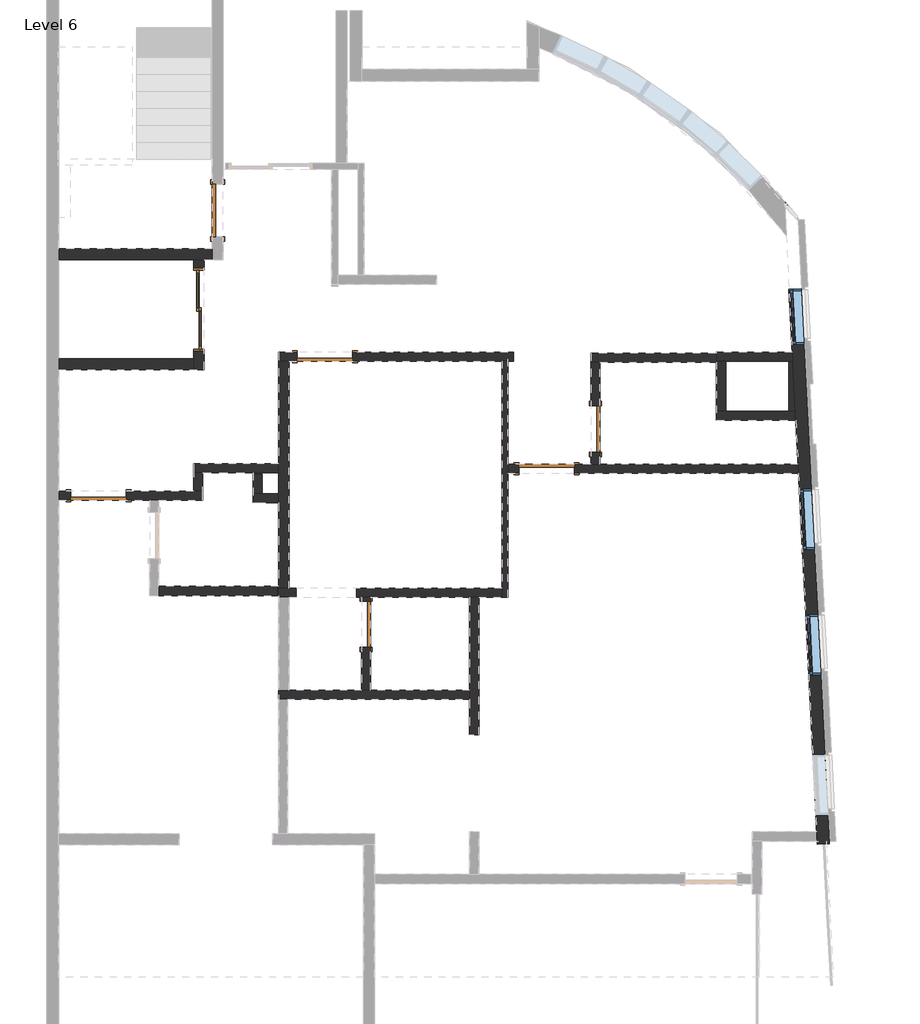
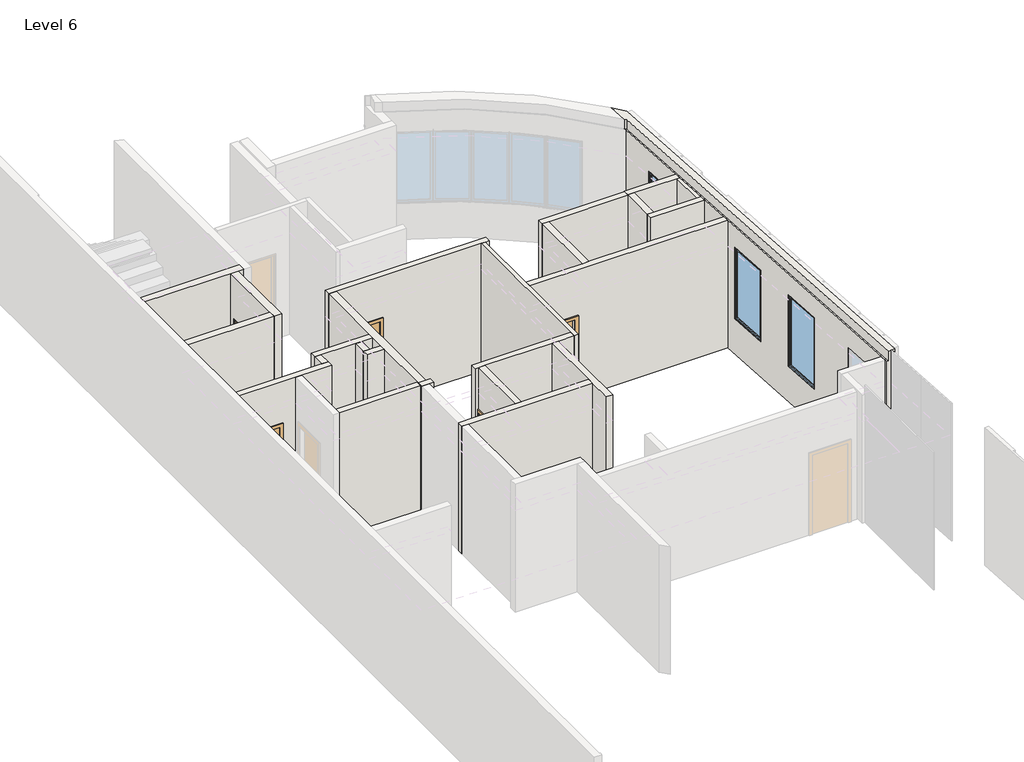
# One storey, part 3 of 5: 25 walls, 7 doors, 3 windows.
"""IFC4 building model written with IfcOpenShell, lengths in millimetres."""

from ifc_helpers import new_model, si_unit, frame, origin, place, context, project, spatial, polyline, circle_curve, outline, extrude, faceted_brep, transform, mapped, element, save
from ifc_brep_helpers import plane_surface, cylinder_surface, revolved_surface, advanced_brep
from components import m_single_flush_0762_x_2134mm_1533e4c5, m_single_flush_0762_x_2134mm_8c18b9de, m_single_flush_0864_x_2032mm_7823a673, m_single_flush_0915_x_2032mm_11c03dd0, m_single_flush_0915_x_2134mm_138fd904, sliding_door_2_panel_aus_f73f6a40, m_fixed_0915_x_1830mm_5d6e8bc1, m_fixed_1000_x_1830mm_2_3397196e

model = new_model("IFC4")

# Units and contexts
model_context = context("Model", 3, world=origin())
ifc_project = project(units=[si_unit("LENGTHUNIT", "METRE", prefix="MILLI")], contexts=[model_context])

# Site, building, storey
site = spatial("IfcSite", under=ifc_project)
building = spatial("IfcBuilding", under=site)
storey = spatial("IfcBuildingStorey", under=building, Name="Level 6", Elevation=22000.0)

# Doors
placement = place(None, origin())
m_single_flush_0762_x_2134mm_shape = m_single_flush_0762_x_2134mm_1533e4c5(model_context)
element("IfcDoor", 1, ObjectType="M_Single-Flush : 0762 x 2134mm", at=placement, inside=storey, context=model_context, shape_type="MappedRepresentation", body=[
    mapped(m_single_flush_0762_x_2134mm_shape, transform((8794.9578779, 5730.2927029, 22000.0), x_axis=(0.0, -1.0, 0.0), y_axis=(1.0, 0.0, 0.0), z_axis=(0.0, 0.0, 1.0))),
])
m_single_flush_0762_x_2134mm_2_shape = m_single_flush_0762_x_2134mm_8c18b9de(model_context)
element("IfcDoor", 2, ObjectType="M_Single-Flush : 0762 x 2134mm", at=placement, inside=storey, context=model_context, shape_type="MappedRepresentation", body=[
    mapped(m_single_flush_0762_x_2134mm_2_shape, transform((5014.9578779, 2515.8778064, 22000.0), x_axis=(0.0, 1.0, 0.0), y_axis=(-1.0, 0.0, 0.0), z_axis=(0.0, 0.0, 1.0))),
])
m_single_flush_0864_x_2032mm_shape = m_single_flush_0864_x_2032mm_7823a673(model_context)
element("IfcDoor", 3, ObjectType="M_Single-Flush : 0864 x 2032mm", at=placement, inside=storey, context=model_context, shape_type="MappedRepresentation", body=[
    mapped(m_single_flush_0864_x_2032mm_shape, transform((2571.8607589, 9328.8748746, 22000.0), x_axis=(0.0, -1.0, 0.0), y_axis=(1.0, 0.0, 0.0), z_axis=(0.0, 0.0, 1.0))),
])
m_single_flush_0915_x_2032mm_shape = m_single_flush_0915_x_2032mm_11c03dd0(model_context)
element("IfcDoor", 4, ObjectType="M_Single-Flush : 0915 x 2032mm", at=placement, inside=storey, context=model_context, shape_type="MappedRepresentation", body=[
    mapped(m_single_flush_0915_x_2032mm_shape, transform((7987.4578779, 5074.2927029, 22000.0), x_axis=(-1.0, 0.0, 0.0), y_axis=(0.0, -1.0, 0.0), z_axis=(0.0, 0.0, 1.0))),
])
m_single_flush_0915_x_2134mm_shape = m_single_flush_0915_x_2134mm_138fd904(model_context)
element("IfcDoor", 5, ObjectType="M_Single-Flush : 0915 x 2134mm", at=placement, inside=storey, context=model_context, shape_type="MappedRepresentation", body=[
    mapped(m_single_flush_0915_x_2134mm_shape, transform((607.4578696, 4631.8830582, 22000.0), x_axis=(-1.0, 0.0, 0.0), y_axis=(0.0, -1.0, 0.0), z_axis=(0.0, 0.0, 1.0))),
])
element("IfcDoor", 6, ObjectType="M_Single-Flush : 0915 x 2134mm", at=placement, inside=storey, context=model_context, shape_type="MappedRepresentation", body=[
    mapped(m_single_flush_0915_x_2134mm_shape, transform((4337.4578779, 6919.2927825, 22000.0), x_axis=(-1.0, 0.0, 0.0), y_axis=(0.0, -1.0, 0.0), z_axis=(0.0, 0.0, 1.0))),
])
sliding_door_2_panel_aus_shape = sliding_door_2_panel_aus_f73f6a40(model_context)
element("IfcDoor", 7, ObjectType="Sliding Door - 2 Panel (AUS) : elavator door", at=placement, inside=storey, context=model_context, shape_type="MappedRepresentation", body=[
    mapped(sliding_door_2_panel_aus_shape, transform((2260.0654712, 7782.6328884, 22000.0), x_axis=(0.0, -1.0, 0.0), y_axis=(1.0, 0.0, 0.0), z_axis=(0.0, 0.0, 1.0))),
])

# Walls
element("IfcWall", 8, ObjectType="Generic - 15cm-granit&gypsum", at=placement, inside=storey, context=model_context, shape_type="SweptSolid", body=[
    extrude(outline(polyline([(5349.2927029, 24134.0), (5349.2927029, 22000.0), (5149.2927029, 22000.0), (5149.2927029, 25259.0), (6830.3684627, 25259.0), (6830.3684627, 22000.0), (6111.2927029, 22000.0), (6111.2927029, 24134.0), (5349.2927029, 24134.0)])), frame((8719.9578779, 0.0, 0.0), z_axis=(1.0, 0.0, 0.0), x_axis=(0.0, 1.0, 0.0)), (0.0, 0.0, 1.0), 150.0),
])
element("IfcWall", 9, ObjectType="Generic - 15cm-gypsu-2boith", at=placement, inside=storey, context=model_context, shape_type="Brep", body=[
    faceted_brep([(12034.2942913, 6994.2927825, 22000.0), (10782.6929286, 6994.2927825, 22000.0), (10782.6929286, 6994.2927825, 25259.0), (12034.2942913, 6994.2927825, 25259.0), (10782.6929286, 6844.2927825, 22000.0), (10788.049349, 6844.2927825, 22000.0), (10938.049349, 6844.2927825, 22000.0), (11974.9265269, 6844.2927825, 22000.0), (12041.9294162, 6844.2927825, 22000.0), (12041.9294162, 6844.2927825, 25259.0), (10782.6929286, 6844.2927825, 25259.0), (10782.6929286, 6980.3684627, 22000.0), (10782.6929286, 6980.3684627, 25259.0)], [[[0, 1, 2, 3]], [[4, 5, 6, 7, 8, 9, 10]], [[1, 0, 8, 7, 6, 5, 4, 11]], [[1, 11, 4, 10, 12, 2]], [[8, 0, 3, 9]], [[3, 2, 12, 10, 9]]]),
])
element("IfcWall", 10, ObjectType="Generic - 15cm-granit&gypsum", at=placement, inside=storey, context=model_context, shape_type="Brep", body=[
    faceted_brep([(7529.9578779, 5149.2927029, 24032.0), (7529.9578779, 5149.2927029, 22000.0), (7349.9578779, 5149.2927029, 22000.0), (7349.9578779, 5149.2927029, 25259.0), (8719.9578779, 5149.2927029, 25259.0), (8869.9578779, 5149.2927029, 25259.0), (12128.2063311, 5149.2927029, 25259.0), (12128.2063311, 5149.2927029, 22000.0), (8869.9578779, 5149.2927029, 22000.0), (8719.9578779, 5149.2927029, 22000.0), (8444.9578779, 5149.2927029, 22000.0), (8444.9578779, 5149.2927029, 24032.0), (7529.9578779, 4999.2927029, 22000.0), (7529.9578779, 4999.2927029, 24032.0), (8444.9578779, 4999.2927029, 24032.0), (8444.9578779, 4999.2927029, 22000.0), (12135.8414559, 4999.2927029, 22000.0), (12135.8414559, 4999.2927029, 25259.0), (7349.9578779, 4999.2927029, 25259.0), (7349.9578779, 4999.2927029, 22000.0)], [[[0, 1, 2, 3, 4, 5, 6, 7, 8, 9, 10, 11]], [[12, 13, 14, 15, 16, 17, 18, 19]], [[7, 16, 15, 10, 9, 8]], [[19, 2, 1, 12]], [[16, 7, 6, 17]], [[2, 19, 18, 3]], [[13, 12, 1, 0]], [[14, 13, 0, 11]], [[15, 14, 11, 10]], [[6, 5, 4, 3, 18, 17]]]),
])
element("IfcWall", 11, ObjectType="Generic - 10cm-gypsu-2boith", at=placement, inside=storey, context=model_context, shape_type="Brep", body=[
    faceted_brep([(7249.9578779, 6844.2927825, 22000.0), (7249.9578779, 3106.8778064, 22000.0), (7249.9578779, 2956.8778064, 22000.0), (7249.9578779, 2956.8778064, 25259.0), (7249.9578779, 3106.8778064, 25259.0), (7249.9578779, 6844.2927825, 25259.0), (7349.9578779, 2956.8778064, 22000.0), (7349.9578779, 4999.2927029, 22000.0), (7349.9578779, 5149.2927029, 22000.0), (7349.9578779, 6844.2927825, 22000.0), (7349.9578779, 6844.2927825, 25259.0), (7349.9578779, 5149.2927029, 25259.0), (7349.9578779, 4999.2927029, 25259.0), (7349.9578779, 2956.8778064, 25259.0)], [[[0, 1, 2, 3, 4, 5]], [[6, 7, 8, 9, 10, 11, 12, 13]], [[2, 1, 0, 9, 8, 7, 6]], [[2, 6, 13, 3]], [[9, 0, 5, 10]], [[5, 4, 3, 13, 12, 11, 10]]]),
])
element("IfcWall", 12, ObjectType="Generic - 15cm-granit&gypsum", at=placement, inside=storey, context=model_context, shape_type="Brep", body=[
    faceted_brep([(7249.9578779, 3106.8778064, 22000.0), (4859.9578779, 3106.8778064, 22000.0), (4859.9578779, 3106.8778064, 25259.0), (7249.9578779, 3106.8778064, 25259.0), (4859.9578779, 2956.8778064, 22000.0), (4939.9578779, 2956.8778064, 22000.0), (5089.9578779, 2956.8778064, 22000.0), (6719.9578779, 2956.8778064, 22000.0), (6869.9578779, 2956.8778064, 22000.0), (7249.9578779, 2956.8778064, 22000.0), (7249.9578779, 2956.8778064, 25259.0), (6869.9578779, 2956.8778064, 25259.0), (6719.9578779, 2956.8778064, 25259.0), (5089.9578779, 2956.8778064, 25259.0), (4939.9578779, 2956.8778064, 25259.0), (4859.9578779, 2956.8778064, 25259.0)], [[[0, 1, 2, 3]], [[4, 5, 6, 7, 8, 9, 10, 11, 12, 13, 14, 15]], [[1, 0, 9, 8, 7, 6, 5, 4]], [[1, 4, 15, 2]], [[9, 0, 3, 10]], [[3, 2, 15, 14, 13, 12, 11, 10]]]),
])
element("IfcWall", 13, ObjectType="Generic - 15cm-granit&gypsum", at=placement, inside=storey, context=model_context, shape_type="Brep", body=[
    faceted_brep([(6719.9578779, 1426.8778064, 22000.0), (5089.9578779, 1426.8778064, 22000.0), (4939.9578779, 1426.8778064, 22000.0), (3749.9578779, 1426.8778064, 22000.0), (3569.9578779, 1426.8778064, 22000.0), (3569.9578779, 1426.8778064, 25259.0), (3749.9578779, 1426.8778064, 25259.0), (6719.9578779, 1426.8778064, 25259.0), (3569.9578779, 1276.8778064, 22000.0), (3719.9578779, 1276.8778064, 22000.0), (6719.9578779, 1276.8778064, 22000.0), (6719.9578779, 1276.8778064, 25259.0), (3719.9578779, 1276.8778064, 25259.0), (3569.9578779, 1276.8778064, 25259.0)], [[[0, 1, 2, 3, 4, 5, 6, 7]], [[8, 9, 10, 11, 12, 13]], [[4, 3, 2, 1, 0, 10, 9, 8]], [[10, 0, 7, 11]], [[4, 8, 13, 5]], [[7, 6, 5, 13, 12, 11]]]),
])
element("IfcWall", 14, ObjectType="Generic - 15cm-granit&gypsum", at=placement, inside=storey, context=model_context, shape_type="Brep", body=[
    faceted_brep([(6719.9578779, 2956.8778064, 22000.0), (6719.9578779, 1426.8778064, 22000.0), (6719.9578779, 1276.8778064, 22000.0), (6719.9578779, 696.0452702, 22000.0), (6719.9578779, 696.0452702, 25259.0), (6719.9578779, 1276.8778064, 25259.0), (6719.9578779, 1426.8778064, 25259.0), (6719.9578779, 2956.8778064, 25259.0), (6869.9578779, 696.0452702, 22000.0), (6869.9578779, 2956.8778064, 22000.0), (6869.9578779, 2956.8778064, 25259.0), (6869.9578779, 696.0452702, 25259.0)], [[[0, 1, 2, 3, 4, 5, 6, 7]], [[8, 9, 10, 11]], [[3, 2, 1, 0, 9, 8]], [[3, 8, 11, 4]], [[9, 0, 7, 10]], [[7, 6, 5, 4, 11, 10]]]),
])
element("IfcWall", 15, ObjectType="Generic - 18cm-gypsu-2boith 2", at=placement, inside=storey, context=model_context, shape_type="Brep", body=[
    faceted_brep([(3569.9578779, 6844.2927825, 22000.0), (3569.9578779, 5156.8860701, 22000.0), (3569.9578779, 5006.8860701, 22000.0), (3569.9578779, 4666.8864855, 22000.0), (3569.9578779, 4516.8864855, 22000.0), (3569.9578779, 3106.8778064, 22000.0), (3569.9578779, 3106.8778064, 25259.0), (3569.9578779, 4516.8864855, 25259.0), (3569.9578779, 4666.8864855, 25259.0), (3569.9578779, 5006.8860701, 25259.0), (3569.9578779, 5156.8860701, 25259.0), (3569.9578779, 6844.2927825, 25259.0), (3749.9578779, 3106.8778064, 22000.0), (3749.9578779, 6844.2927825, 22000.0), (3749.9578779, 6844.2927825, 25259.0), (3749.9578779, 3106.8778064, 25259.0)], [[[0, 1, 2, 3, 4, 5, 6, 7, 8, 9, 10, 11]], [[12, 13, 14, 15]], [[5, 4, 3, 2, 1, 0, 13, 12]], [[5, 12, 15, 6]], [[13, 0, 11, 14]], [[11, 10, 9, 8, 7, 6, 15, 14]]]),
])
element("IfcWall", 16, ObjectType="Generic - 18cm-gypsu-2boith 2", at=placement, inside=storey, context=model_context, shape_type="SweptSolid", body=[
    extrude(outline(polyline([(-50.0421304, 8696.8748746), (2481.8607589, 8696.8748746), (2481.8607589, 8516.8748746), (-50.0421304, 8516.8748746), (-50.0421304, 8696.8748746)])), frame((0.0, 0.0, 22000.0), z_axis=(0.0, 0.0, 1.0), x_axis=(1.0, 0.0, 0.0)), (0.0, 0.0, 1.0), 3259.0),
])
element("IfcWall", 17, ObjectType="Generic - 18cm-gypsu-2boith 2", at=placement, inside=storey, context=model_context, shape_type="Brep", body=[
    faceted_brep([(2170.0654712, 8506.8748906, 22000.0), (2170.0654712, 8386.8748872, 22000.0), (2170.0654712, 8386.8748872, 24183.0), (2170.0654712, 7006.8748872, 24183.0), (2170.0654712, 7006.8748872, 22000.0), (2170.0654712, 6886.8748838, 22000.0), (2170.0654712, 6706.8748838, 22000.0), (2170.0654712, 6706.8748838, 25259.0), (2170.0654712, 6886.8748838, 25259.0), (2170.0654712, 8506.8748906, 25259.0), (2350.0654712, 8386.8748872, 22000.0), (2350.0654712, 8506.8748906, 22000.0), (2350.0654712, 8506.8748906, 25259.0), (2350.0654712, 6706.8748838, 25259.0), (2350.0654712, 6706.8748838, 22000.0), (2350.0654712, 7006.8748872, 22000.0), (2350.0654712, 7006.8748872, 24183.0), (2350.0654712, 8386.8748872, 24183.0)], [[[0, 1, 2, 3, 4, 5, 6, 7, 8, 9]], [[10, 11, 12, 13, 14, 15, 16, 17]], [[0, 11, 10, 1]], [[14, 6, 5, 4, 15]], [[11, 0, 9, 12]], [[6, 14, 13, 7]], [[9, 8, 7, 13, 12]], [[17, 2, 1, 10]], [[2, 17, 16, 3]], [[3, 16, 15, 4]]]),
])
element("IfcWall", 18, ObjectType="Generic - 18cm-gypsu-2boith 2", at=placement, inside=storey, context=model_context, shape_type="SweptSolid", body=[
    extrude(outline(polyline([(-50.0421304, 6886.8748838), (2170.0654712, 6886.8748838), (2170.0654712, 6706.8748838), (-50.0421304, 6706.8748838), (-50.0421304, 6886.8748838)])), frame((0.0, 0.0, 22000.0), z_axis=(0.0, 0.0, 1.0), x_axis=(1.0, 0.0, 0.0)), (0.0, 0.0, 1.0), 3259.0),
])
element("IfcWall", 19, ObjectType="Generic - 15cm-granit&gypsum", at=placement, inside=storey, context=model_context, shape_type="Brep", body=[
    faceted_brep([(12077.3702251, 6025.0705769, 22000.0), (12074.9265269, 6025.0705769, 22000.0), (11974.9265269, 6025.0705769, 22000.0), (10938.049349, 6025.0705769, 22000.0), (10788.049349, 6025.0705769, 22000.0), (10788.049349, 6025.0705769, 25259.0), (10938.049349, 6025.0705769, 25259.0), (12077.3702251, 6025.0705769, 25259.0), (10788.049349, 5875.0705769, 22000.0), (12077.3702251, 5875.0705769, 22000.0), (12077.3702251, 5875.0705769, 25259.0), (10788.049349, 5875.0705769, 25259.0)], [[[0, 1, 2, 3, 4, 5, 6, 7]], [[8, 9, 10, 11]], [[4, 3, 2, 1, 0, 9, 8]], [[9, 0, 7, 10]], [[4, 8, 11, 5]], [[7, 6, 5, 11, 10]]]),
])
element("IfcWall", 20, ObjectType="Generic - 15cm-granit&gypsum", at=placement, inside=storey, context=model_context, shape_type="SweptSolid", body=[
    extrude(outline(polyline([(10938.049349, 6844.2927825), (10938.049349, 6025.0705769), (10788.049349, 6025.0705769), (10788.049349, 6844.2927825), (10938.049349, 6844.2927825)])), frame((0.0, 0.0, 22000.0), z_axis=(0.0, 0.0, 1.0), x_axis=(1.0, 0.0, 0.0)), (0.0, 0.0, 1.0), 3259.0),
])
element("IfcWall", 21, ObjectType="Generic - 10cm-gypsu-2boith", at=placement, inside=storey, context=model_context, shape_type="Brep", body=[
    faceted_brep([(12074.9265269, 6025.0705769, 22000.0), (12074.9265269, 6844.2927825, 22000.0), (12074.9265269, 6844.2927825, 25500.0), (12074.9265269, 6786.1744317, 25500.0), (12074.9265269, 6786.1744317, 25259.0), (12074.9265269, 6025.0705769, 25259.0), (11974.9265269, 6844.2927825, 22000.0), (11974.9265269, 6025.0705769, 22000.0), (11974.9265269, 6025.0705769, 25259.0), (11974.9265269, 6844.2927825, 25259.0), (12041.9294162, 6844.2927825, 22000.0), (12071.9682544, 6844.2927825, 25500.0), (12041.9294162, 6844.2927825, 25259.0), (12071.9682544, 6844.2927825, 25259.0)], [[[0, 1, 2, 3, 4, 5]], [[6, 7, 8, 9]], [[1, 0, 7, 6, 10]], [[3, 2, 11]], [[7, 0, 5, 8]], [[2, 1, 10, 6, 9, 12, 13, 11]], [[4, 13, 12, 9, 8, 5]], [[13, 4, 3, 11]]]),
])
element("IfcWall", 22, ObjectType="Generic - 15cm-granit&gypsum", at=placement, inside=storey, context=model_context, shape_type="SweptSolid", body=[
    extrude(outline(polyline([(2896.8778064, 22000.0), (2896.8778064, 24134.0), (2134.8778064, 24134.0), (2134.8778064, 22000.0), (1426.8778064, 22000.0), (1426.8778064, 25259.0), (2956.8778064, 25259.0), (2956.8778064, 22000.0), (2896.8778064, 22000.0)])), frame((4939.9578779, 0.0, 0.0), z_axis=(1.0, 0.0, 0.0), x_axis=(0.0, 1.0, 0.0)), (0.0, 0.0, 1.0), 150.0),
])
element("IfcWall", 23, ObjectType="Generic - 15cm-granit&gypsum", at=placement, inside=storey, context=model_context, shape_type="Brep", body=[
    faceted_brep([(149.9578696, 4556.8830582, 22000.0), (149.9578696, 4556.8830582, 24134.0), (1064.9578696, 4556.8830582, 24134.0), (1064.9578696, 4556.8830582, 22000.0), (1449.9578776, 4556.8830582, 22000.0), (1599.9578776, 4556.8830582, 22000.0), (2319.9578779, 4556.8830582, 22000.0), (2319.9578779, 4556.8830582, 25259.0), (-50.0421304, 4556.8830582, 25259.0), (-50.0421304, 4556.8830582, 22000.0), (149.9578696, 4706.8830582, 24134.0), (149.9578696, 4706.8830582, 22000.0), (-50.0421304, 4706.8830582, 22000.0), (-50.0421304, 4706.8830582, 25259.0), (2169.9578779, 4706.8830582, 25259.0), (2319.9578779, 4706.8830582, 25259.0), (2319.9578779, 4706.8830582, 22000.0), (2169.9578779, 4706.8830582, 22000.0), (1064.9578696, 4706.8830582, 22000.0), (1064.9578696, 4706.8830582, 24134.0)], [[[0, 1, 2, 3, 4, 5, 6, 7, 8, 9]], [[10, 11, 12, 13, 14, 15, 16, 17, 18, 19]], [[9, 12, 11, 0]], [[16, 6, 5, 4, 3, 18, 17]], [[12, 9, 8, 13]], [[6, 16, 15, 7]], [[1, 0, 11, 10]], [[2, 1, 10, 19]], [[3, 2, 19, 18]], [[8, 7, 15, 14, 13]]]),
])
element("IfcWall", 24, ObjectType="Generic - 15cm-granit&gypsum", at=placement, inside=storey, context=model_context, shape_type="Brep", body=[
    faceted_brep([(2169.9578779, 5006.8860701, 22000.0), (2319.9578779, 5006.8860701, 22000.0), (3569.9578779, 5006.8860701, 22000.0), (3569.9578779, 5006.8860701, 25259.0), (2319.9578779, 5006.8860701, 25259.0), (2169.9578779, 5006.8860701, 25259.0), (3569.9578779, 5156.8860701, 22000.0), (2169.9578779, 5156.8860701, 22000.0), (2169.9578779, 5156.8860701, 25259.0), (3569.9578779, 5156.8860701, 25259.0)], [[[0, 1, 2, 3, 4, 5]], [[6, 7, 8, 9]], [[2, 1, 0, 7, 6]], [[7, 0, 5, 8]], [[2, 6, 9, 3]], [[5, 4, 3, 9, 8]]]),
])
element("IfcWall", 25, ObjectType="Generic - 15cm-granit&gypsum", at=placement, inside=storey, context=model_context, shape_type="SweptSolid", body=[
    extrude(outline(polyline([(2319.9578779, 5006.8860701), (2319.9578779, 4706.8830582), (2169.9578779, 4706.8830582), (2169.9578779, 5006.8860701), (2319.9578779, 5006.8860701)])), frame((0.0, 0.0, 22000.0), z_axis=(0.0, 0.0, 1.0), x_axis=(1.0, 0.0, 0.0)), (0.0, 0.0, 1.0), 3259.0),
])
element("IfcWall", 26, ObjectType="Generic - 15cm-granit&gypsum", at=placement, inside=storey, context=model_context, shape_type="Brep", body=[
    faceted_brep([(3149.9574416, 4516.8864855, 22000.0), (3569.9578779, 4516.8864855, 22000.0), (3569.9578779, 4516.8864855, 25259.0), (3149.9574416, 4516.8864855, 25259.0), (3569.9578779, 4666.8864855, 22000.0), (3299.9574416, 4666.8864855, 22000.0), (3149.9574416, 4666.8864855, 22000.0), (3149.9574416, 4666.8864855, 25259.0), (3299.9574416, 4666.8864855, 25259.0), (3569.9578779, 4666.8864855, 25259.0)], [[[0, 1, 2, 3]], [[4, 5, 6, 7, 8, 9]], [[1, 0, 6, 5, 4]], [[1, 4, 9, 2]], [[6, 0, 3, 7]], [[3, 2, 9, 8, 7]]]),
])
element("IfcWall", 27, ObjectType="Generic - 15cm-granit&gypsum", at=placement, inside=storey, context=model_context, shape_type="SweptSolid", body=[
    extrude(outline(polyline([(3149.9574416, 4666.8864855), (3149.9574416, 4986.8860701), (3299.9574416, 4986.8860701), (3299.9574416, 4666.8864855), (3149.9574416, 4666.8864855)])), frame((0.0, 0.0, 22000.0), z_axis=(0.0, 0.0, 1.0), x_axis=(1.0, 0.0, 0.0)), (0.0, 0.0, 1.0), 3259.0),
])
element("IfcWall", 28, ObjectType="Generic - 15cm-gypsu-2boith", at=placement, inside=storey, context=model_context, shape_type="Brep", body=[
    faceted_brep([(3879.9578779, 6994.2927825, 24134.0), (3879.9578779, 6994.2927825, 22000.0), (3569.9578779, 6994.2927825, 22000.0), (3569.9578779, 6994.2927825, 25259.0), (7439.9578779, 6994.2927825, 25259.0), (7439.9578779, 6994.2927825, 22000.0), (4794.9578779, 6994.2927825, 22000.0), (4794.9578779, 6994.2927825, 24134.0), (3879.9578779, 6844.2927825, 22000.0), (3879.9578779, 6844.2927825, 24134.0), (4794.9578779, 6844.2927825, 24134.0), (4794.9578779, 6844.2927825, 22000.0), (7249.9578779, 6844.2927825, 22000.0), (7349.9578779, 6844.2927825, 22000.0), (7439.9578779, 6844.2927825, 22000.0), (7439.9578779, 6844.2927825, 25259.0), (7349.9578779, 6844.2927825, 25259.0), (7249.9578779, 6844.2927825, 25259.0), (3749.9578779, 6844.2927825, 25259.0), (3569.9578779, 6844.2927825, 25259.0), (3569.9578779, 6844.2927825, 22000.0), (3749.9578779, 6844.2927825, 22000.0)], [[[0, 1, 2, 3, 4, 5, 6, 7]], [[8, 9, 10, 11, 12, 13, 14, 15, 16, 17, 18, 19, 20, 21]], [[5, 14, 13, 12, 11, 6]], [[1, 8, 21, 20, 2]], [[14, 5, 4, 15]], [[9, 8, 1, 0]], [[10, 9, 0, 7]], [[11, 10, 7, 6]], [[2, 20, 19, 3]], [[4, 3, 19, 18, 17, 16, 15]]]),
])
element("IfcWall", 29, ObjectType="Generic - 15cm-granit&gypsum", at=placement, inside=storey, context=model_context, shape_type="Brep", body=[
    faceted_brep([(8719.9578779, 6830.3684627, 22000.0), (8869.9578779, 6830.3684627, 22000.0), (10782.6929286, 6830.3684627, 22000.0), (10782.6929286, 6830.3684627, 25259.0), (8869.9578779, 6830.3684627, 25259.0), (8719.9578779, 6830.3684627, 25259.0), (10782.6929286, 6980.3684627, 22000.0), (8719.9578779, 6980.3684627, 22000.0), (8719.9578779, 6980.3684627, 25259.0), (10782.6929286, 6980.3684627, 25259.0), (10782.6929286, 6844.2927825, 22000.0), (10782.6929286, 6844.2927825, 25259.0)], [[[0, 1, 2, 3, 4, 5]], [[6, 7, 8, 9]], [[2, 1, 0, 7, 6, 10]], [[2, 10, 6, 9, 11, 3]], [[7, 0, 5, 8]], [[5, 4, 3, 11, 9, 8]]]),
])
element("IfcWall", 30, ObjectType="Generic - 15cm-granit&gypsum", at=placement, inside=storey, context=model_context, shape_type="SweptSolid", body=[
    extrude(outline(polyline([(1599.9578776, 3136.8778064), (3549.9578779, 3136.8778064), (3549.9578779, 2986.8778064), (1599.9578776, 2986.8778064), (1599.9578776, 3136.8778064)])), frame((0.0, 0.0, 22000.0), z_axis=(0.0, 0.0, 1.0), x_axis=(1.0, 0.0, 0.0)), (0.0, 0.0, 1.0), 3259.0),
])
element("IfcWall", 31, ObjectType="Generic - 15cm-granit&gypsum", at=placement, inside=storey, context=model_context, shape_type="Brep", body=[
    faceted_brep([(3859.9578779, 3106.8778064, 22000.0), (3749.9578779, 3106.8778064, 22000.0), (3569.9578779, 3106.8778064, 22000.0), (3569.9578779, 3106.8778064, 25259.0), (3749.9578779, 3106.8778064, 25259.0), (3859.9578779, 3106.8778064, 25259.0), (3569.9578779, 2956.8778064, 22000.0), (3749.9578779, 2956.8778064, 22000.0), (3859.9578779, 2956.8778064, 22000.0), (3859.9578779, 2956.8778064, 25259.0), (3749.9578779, 2956.8778064, 25259.0), (3569.9578779, 2956.8778064, 25259.0)], [[[0, 1, 2, 3, 4, 5]], [[6, 7, 8, 9, 10, 11]], [[2, 1, 0, 8, 7, 6]], [[8, 0, 5, 9]], [[2, 6, 11, 3]], [[5, 4, 3, 11, 10, 9]]]),
])
element("IfcWall", 32, ObjectType="Generic - 20cm-gypsum", at=placement, inside=storey, context=model_context, shape_type="AdvancedBrep", body=[
    advanced_brep(
    [(11908.3121492, 9469.3435074, 22000.0), (11936.5482631, 8914.6155682, 22000.0), (12034.2942913, 6994.2927825, 22000.0), (12041.9294162, 6844.2927825, 22000.0), (12128.2063311, 5149.2927029, 22000.0), (12135.8414559, 4999.2927029, 22000.0), (12446.8232818, -1110.2699756, 22000.0), (12446.8232818, -1110.2699756, 25259.0), (12135.8414559, 4999.2927029, 25259.0), (12128.2063311, 5149.2927029, 25259.0), (12041.9294162, 6844.2927825, 25259.0), (12034.2942913, 6994.2927825, 25259.0), (11936.5482631, 8914.6155682, 25259.0), (11933.8152789, 8968.3078963, 25259.0), (11933.8152789, 8968.3078963, 25500.0), (11908.3121492, 9469.3435074, 25500.0), (11908.3121492, 9469.3435074, 24745.0), (11910.4512496, 9427.3186475, 24745.0), (11910.4512496, 9427.3186475, 24695.0), (11908.3121492, 9469.3435074, 24695.0), (11908.3121492, 9469.3435074, 22925.0), (11910.4512496, 9427.3186475, 22925.0), (11910.4512496, 9427.3186475, 22875.0), (11908.3121492, 9469.3435074, 22875.0), (12422.6623613, -635.6034658, 22900.0), (12371.8273404, 363.1035987, 22900.0), (12371.8273404, 363.1035987, 24730.0), (12422.6623613, -635.6034658, 24730.0), (12305.2334631, 1671.4098532, 22900.0), (12254.3984422, 2670.1169177, 22900.0), (12254.3984422, 2670.1169177, 24730.0), (12305.2334631, 1671.4098532, 24730.0), (12200.0049698, 3738.7334766, 22900.0), (12149.1699489, 4737.4405411, 22900.0), (12149.1699489, 4737.4405411, 24730.0), (12200.0049698, 3738.7334766, 24730.0), (12028.2494319, 7113.0503572, 22900.0), (11981.7353878, 8026.8673212, 22900.0), (11981.7353878, 8026.8673212, 24730.0), (12028.2494319, 7113.0503572, 24730.0), (12646.5646947, -1100.1029714, 22000.0), (12122.2974145, 9199.675158, 22000.0), (12122.2974145, 9199.675158, 22875.0), (12124.5482533, 9155.45508, 22875.0), (12124.5482533, 9155.45508, 22925.0), (12122.2974145, 9199.675158, 22925.0), (12122.2974145, 9199.675158, 24695.0), (12124.5482533, 9155.45508, 24695.0), (12124.5482533, 9155.45508, 24745.0), (12122.2974145, 9199.675158, 24745.0), (12122.2974145, 9199.675158, 25500.0), (12646.5646947, -1100.1029714, 25500.0), (12571.5687533, 373.2706029, 22900.0), (12622.4037742, -625.4364616, 22900.0), (12622.4037742, -625.4364616, 24730.0), (12571.5687533, 373.2706029, 24730.0), (12454.1398551, 2680.2839218, 22900.0), (12504.974876, 1681.5768573, 22900.0), (12504.974876, 1681.5768573, 24730.0), (12454.1398551, 2680.2839218, 24730.0), (12348.9113618, 4747.6075453, 22900.0), (12399.7463827, 3748.9004808, 22900.0), (12399.7463827, 3748.9004808, 24730.0), (12348.9113618, 4747.6075453, 24730.0), (12181.4768007, 8037.0343254, 22900.0), (12227.9908448, 7123.2173614, 22900.0), (12227.9908448, 7123.2173614, 24730.0), (12181.4768007, 8037.0343254, 24730.0), (12476.7844937, -1108.7449249, 25500.0), (12476.7844937, -1108.7449249, 25259.0), (11966.0468245, 8925.2298708, 25500.0), (11966.0468245, 8925.2298708, 25259.0)],
    [
        (0, 1),
        (1, 2),
        (2, 3),
        (3, 4),
        (4, 5),
        (5, 6),
        (6, 7),
        (7, 8),
        (8, 9),
        (9, 10),
        (10, 11),
        (11, 12),
        (12, 13),
        (13, 14),
        (14, 15),
        (15, 16),
        (16, 17),
        (17, 18),
        (18, 19),
        (19, 20),
        (20, 21),
        (21, 22),
        (22, 23),
        (23, 0),
        (24, 25),
        (25, 26),
        (26, 27),
        (27, 24),
        (28, 29),
        (29, 30),
        (30, 31),
        (31, 28),
        (32, 33),
        (33, 34),
        (34, 35),
        (35, 32),
        (36, 37),
        (37, 38),
        (38, 39),
        (39, 36),
        (40, 41),
        (41, 42),
        (42, 43),
        (43, 44),
        (44, 45),
        (45, 46),
        (46, 47),
        (47, 48),
        (48, 49),
        (49, 50),
        (50, 51),
        (51, 40),
        (52, 53),
        (53, 54),
        (54, 55),
        (55, 52),
        (56, 57),
        (57, 58),
        (58, 59),
        (59, 56),
        (60, 61),
        (61, 62),
        (62, 63),
        (63, 60),
        (64, 65),
        (65, 66),
        (66, 67),
        (67, 64),
        (52, 25),
        (24, 53),
        (55, 26),
        (54, 27),
        (56, 29),
        (28, 57),
        (59, 30),
        (58, 31),
        (60, 33),
        (32, 61),
        (63, 34),
        (62, 35),
        (64, 37),
        (36, 65),
        (67, 38),
        (66, 39),
        (0, 41, circle_curve(frame((4535.6080259, 3399.2748166, 22000.0), z_axis=(0.0, 0.0, -1.0), x_axis=(0.7954529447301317, 0.6060153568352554, 0.0)), 9550.0)),
        (40, 6),
        (51, 68),
        (68, 69),
        (69, 7),
        (50, 15, circle_curve(frame((4535.6080259, 3399.2748166, 25500.0), z_axis=(0.0, 0.0, 1.0), x_axis=(0.7954529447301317, 0.6060153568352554, 0.0)), 9550.0)),
        (14, 70, circle_curve(frame((4535.6080259, 3399.2748166, 25500.0), z_axis=(0.0, 0.0, -1.0), x_axis=(1.0, 0.0, 0.0)), 9260.0)),
        (70, 68),
        (49, 16, circle_curve(frame((4535.6080259, 3399.2748166, 24745.0), z_axis=(0.0, 0.0, 1.0), x_axis=(0.7954529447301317, 0.6060153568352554, 0.0)), 9550.0)),
        (23, 42, circle_curve(frame((4535.6080259, 3399.2748166, 22875.0), z_axis=(0.0, 0.0, -1.0), x_axis=(0.7954529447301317, 0.6060153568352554, 0.0)), 9550.0)),
        (45, 20, circle_curve(frame((4535.6080259, 3399.2748166, 22925.0), z_axis=(0.0, 0.0, 1.0), x_axis=(0.7954529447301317, 0.6060153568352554, 0.0)), 9550.0)),
        (19, 46, circle_curve(frame((4535.6080259, 3399.2748166, 24695.0), z_axis=(0.0, 0.0, -1.0), x_axis=(0.7954529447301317, 0.6060153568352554, 0.0)), 9550.0)),
        (44, 21, circle_curve(frame((4535.6080259, 3399.2748166, 22925.0), z_axis=(0.0, 0.0, 1.0), x_axis=(0.32740306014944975, 0.9448847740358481, 0.0)), 9525.0)),
        (22, 43, circle_curve(frame((4535.6080259, 3399.2748166, 22875.0), z_axis=(0.0, 0.0, -1.0), x_axis=(0.32740306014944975, 0.9448847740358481, 0.0)), 9525.0)),
        (48, 17, circle_curve(frame((4535.6080259, 3399.2748166, 24745.0), z_axis=(0.0, 0.0, 1.0), x_axis=(0.7339562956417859, 0.6791966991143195, 0.0)), 9525.0)),
        (18, 47, circle_curve(frame((4535.6080259, 3399.2748166, 24695.0), z_axis=(0.0, 0.0, -1.0), x_axis=(0.7339562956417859, 0.6791966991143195, 0.0)), 9525.0)),
        (69, 71),
        (71, 13, circle_curve(frame((4535.6080259, 3399.2748166, 25259.0), z_axis=(0.0, 0.0, 1.0), x_axis=(1.0, 0.0, 0.0)), 9260.0)),
        (71, 70),
    ],
    [
        plane_surface(frame((11929.5360205, 9052.3783941, 22000.0), z_axis=(-0.9987070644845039, -0.05083502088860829, 0.0), x_axis=(0.05083502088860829, -0.9987070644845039, 0.0))),
        plane_surface(frame((12129.2774334, 9062.5453983, 22000.0), z_axis=(0.9987070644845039, 0.05083502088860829, 0.0), x_axis=(-0.05083502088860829, 0.9987070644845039, 0.0))),
        plane_surface(frame((12571.5687533, 373.2706029, 22900.0), z_axis=(0.0, 0.0, 1.0), x_axis=(-0.998707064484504, -0.050835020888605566, 0.0))),
        plane_surface(frame((12571.5687533, 373.2706029, 24730.0), z_axis=(0.050835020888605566, -0.998707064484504, 0.0), x_axis=(-0.998707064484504, -0.050835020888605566, 0.0))),
        plane_surface(frame((12622.4037742, -625.4364616, 24730.0), z_axis=(0.0, 0.0, -1.0), x_axis=(-0.998707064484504, -0.050835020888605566, 0.0))),
        plane_surface(frame((12622.4037742, -625.4364616, 22900.0), z_axis=(-0.050835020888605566, 0.998707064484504, 0.0), x_axis=(-0.998707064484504, -0.050835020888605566, 0.0))),
        plane_surface(frame((12454.1398551, 2680.2839218, 22900.0), z_axis=(0.0, 0.0, 1.0), x_axis=(-0.9987070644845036, -0.050835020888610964, 0.0))),
        plane_surface(frame((12454.1398551, 2680.2839218, 24730.0), z_axis=(0.050835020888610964, -0.9987070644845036, 0.0), x_axis=(-0.9987070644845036, -0.050835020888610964, 0.0))),
        plane_surface(frame((12504.974876, 1681.5768573, 24730.0), z_axis=(0.0, 0.0, -1.0), x_axis=(-0.998707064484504, -0.050835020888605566, 0.0))),
        plane_surface(frame((12504.974876, 1681.5768573, 22900.0), z_axis=(-0.050835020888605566, 0.998707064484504, 0.0), x_axis=(-0.998707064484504, -0.050835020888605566, 0.0))),
        plane_surface(frame((12348.9113618, 4747.6075453, 22900.0), z_axis=(0.0, 0.0, 1.0), x_axis=(-0.998707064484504, -0.050835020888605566, 0.0))),
        plane_surface(frame((12348.9113618, 4747.6075453, 24730.0), z_axis=(0.050835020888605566, -0.998707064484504, 0.0), x_axis=(-0.998707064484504, -0.050835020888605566, 0.0))),
        plane_surface(frame((12399.7463827, 3748.9004808, 24730.0), z_axis=(0.0, 0.0, -1.0), x_axis=(-0.998707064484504, -0.050835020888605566, 0.0))),
        plane_surface(frame((12399.7463827, 3748.9004808, 22900.0), z_axis=(-0.05083502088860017, 0.9987070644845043, 0.0), x_axis=(-0.9987070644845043, -0.05083502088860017, 0.0))),
        plane_surface(frame((12181.4768007, 8037.0343254, 22900.0), z_axis=(0.0, 0.0, 1.0), x_axis=(-0.998707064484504, -0.050835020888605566, 0.0))),
        plane_surface(frame((12181.4768007, 8037.0343254, 24730.0), z_axis=(0.050835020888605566, -0.998707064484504, 0.0), x_axis=(-0.998707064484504, -0.050835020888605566, 0.0))),
        plane_surface(frame((12227.9908448, 7123.2173614, 24730.0), z_axis=(0.0, 0.0, -1.0), x_axis=(-0.998707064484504, -0.050835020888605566, 0.0))),
        plane_surface(frame((12227.9908448, 7123.2173614, 22900.0), z_axis=(-0.050835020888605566, 0.998707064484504, 0.0), x_axis=(-0.998707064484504, -0.050835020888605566, 0.0))),
        plane_surface(frame((11929.5360205, 9052.3783941, 22000.0), z_axis=(0.0, 0.0, -1.0), x_axis=(0.9987070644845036, 0.050835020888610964, 0.0))),
        plane_surface(frame((12446.8232818, -1110.2699756, 22000.0), z_axis=(0.050835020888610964, -0.9987070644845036, 0.0), x_axis=(0.9987070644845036, 0.050835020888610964, 0.0))),
        plane_surface(frame((12446.8232818, -1110.2699756, 25500.0), z_axis=(0.0, 0.0, 1.0), x_axis=(0.9987070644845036, 0.050835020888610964, 0.0))),
        cylinder_surface(frame((4535.6080259, 3399.2748166, 22000.0), z_axis=(0.0, 0.0, 1.0), x_axis=(0.7954529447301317, 0.6060153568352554, 0.0)), 9550.0),
        plane_surface(frame((4535.6080259, 3399.2748166, 22925.0), z_axis=(0.0, 0.0, -1.0), x_axis=(0.32740306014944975, 0.9448847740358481, 0.0))),
        plane_surface(frame((4535.6080259, 3399.2748166, 22875.0), z_axis=(0.0, 0.0, 1.0), x_axis=(0.32740306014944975, 0.9448847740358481, 0.0))),
        cylinder_surface(frame((4535.6080259, 3399.2748166, 22900.0), z_axis=(0.0, 0.0, -1.0), x_axis=(0.32740306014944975, 0.9448847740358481, 0.0)), 9525.0),
        plane_surface(frame((4535.6080259, 3399.2748166, 24745.0), z_axis=(0.0, 0.0, -1.0), x_axis=(0.7339562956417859, 0.6791966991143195, 0.0))),
        plane_surface(frame((4535.6080259, 3399.2748166, 24695.0), z_axis=(0.0, 0.0, 1.0), x_axis=(0.7339562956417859, 0.6791966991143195, 0.0))),
        cylinder_surface(frame((4535.6080259, 3399.2748166, 24720.0), z_axis=(0.0, 0.0, -1.0), x_axis=(0.7339562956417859, 0.6791966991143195, 0.0)), 9525.0),
        plane_surface(frame((-80.0421304, 14944.8648867, 25259.0), z_axis=(0.0, 0.0, 1.0), x_axis=(0.9323005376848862, -0.36168454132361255, 0.0))),
        revolved_surface(polyline([(13795.608025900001, 3399.2748166, 25259.0), (13795.608025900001, 3399.2748166, 25500.0)]), (4535.6080259, 3399.2748166, 25500.0), (0.0, 0.0, -1.0)),
        plane_surface(frame((11966.0468245, 8925.2298708, 25259.0), z_axis=(-0.9987070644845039, -0.05083502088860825, 0.0), x_axis=(0.0, 0.0, 1.0))),
    ],
    [
        (0, [[1, 2, 3, 4, 5, 6, 7, 8, 9, 10, 11, 12, 13, 14, 15, 16, 17, 18, 19, 20, 21, 22, 23, 24], [25, 26, 27, 28], [29, 30, 31, 32], [33, 34, 35, 36], [37, 38, 39, 40]]),
        (1, [[41, 42, 43, 44, 45, 46, 47, 48, 49, 50, 51, 52], [53, 54, 55, 56], [57, 58, 59, 60], [61, 62, 63, 64], [65, 66, 67, 68]]),
        (2, [[-53, 69, -25, 70]]),
        (3, [[-56, 71, -26, -69]]),
        (4, [[-55, 72, -27, -71]]),
        (5, [[-54, -70, -28, -72]]),
        (6, [[-57, 73, -29, 74]]),
        (7, [[-60, 75, -30, -73]]),
        (8, [[-59, 76, -31, -75]]),
        (9, [[-58, -74, -32, -76]]),
        (10, [[-61, 77, -33, 78]]),
        (11, [[-64, 79, -34, -77]]),
        (12, [[-63, 80, -35, -79]]),
        (13, [[-62, -78, -36, -80]]),
        (14, [[-65, 81, -37, 82]]),
        (15, [[-68, 83, -38, -81]]),
        (16, [[-67, 84, -39, -83]]),
        (17, [[-66, -82, -40, -84]]),
        (18, [[-6, -5, -4, -3, -2, -1, 85, -41, 86]]),
        (19, [[-52, 87, 88, 89, -7, -86]]),
        (20, [[-51, 90, -15, 91, 92, -87]]),
        (21, [[-90, -50, 93, -16]]),
        (21, [[-85, -24, 94, -42]]),
        (21, [[95, -20, 96, -46]]),
        (22, [[97, -21, -95, -45]]),
        (23, [[98, -43, -94, -23]]),
        (24, [[-97, -44, -98, -22]]),
        (25, [[99, -17, -93, -49]]),
        (26, [[100, -47, -96, -19]]),
        (27, [[-99, -48, -100, -18]]),
        (28, [[101, 102, -13, -12, -11, -10, -9, -8, -89]]),
        (29, [[103, -91, -14, -102]]),
        (30, [[-103, -101, -88, -92]]),
    ],
),
])

# Windows
m_fixed_0915_x_1830mm_shape = m_fixed_0915_x_1830mm_5d6e8bc1(model_context)
element("IfcWindow", 33, ObjectType="M_Fixed : 0915 x 1830mm", at=placement, inside=storey, context=model_context, shape_type="MappedRepresentation", body=[
    mapped(m_fixed_0915_x_1830mm_shape, transform((12117.8463081, 7575.7031965, 22595.0), x_axis=(-0.05083502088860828, 0.9987070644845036, 0.0), y_axis=(-0.9987070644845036, -0.05083502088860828, 0.0), z_axis=(0.0, 0.0, 1.0))),
])
m_fixed_1000_x_1830mm_2_shape = m_fixed_1000_x_1830mm_2_3397196e(model_context)
element("IfcWindow", 34, ObjectType="M_Fixed : 1000 x 1830mm 2", at=placement, inside=storey, context=model_context, shape_type="MappedRepresentation", body=[
    mapped(m_fixed_1000_x_1830mm_2_shape, transform((12392.6698509, 2176.5077428, 22595.0), x_axis=(-0.05083502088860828, 0.9987070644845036, 0.0), y_axis=(-0.9987070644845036, -0.05083502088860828, 0.0), z_axis=(0.0, 0.0, 1.0))),
])
element("IfcWindow", 35, ObjectType="M_Fixed : 1000 x 1830mm 2", at=placement, inside=storey, context=model_context, shape_type="MappedRepresentation", body=[
    mapped(m_fixed_1000_x_1830mm_2_shape, transform((12287.4413577, 4243.8313663, 22595.0), x_axis=(-0.05083502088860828, 0.9987070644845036, 0.0), y_axis=(-0.9987070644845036, -0.05083502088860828, 0.0), z_axis=(0.0, 0.0, 1.0))),
])

save(model, "model.ifc")
